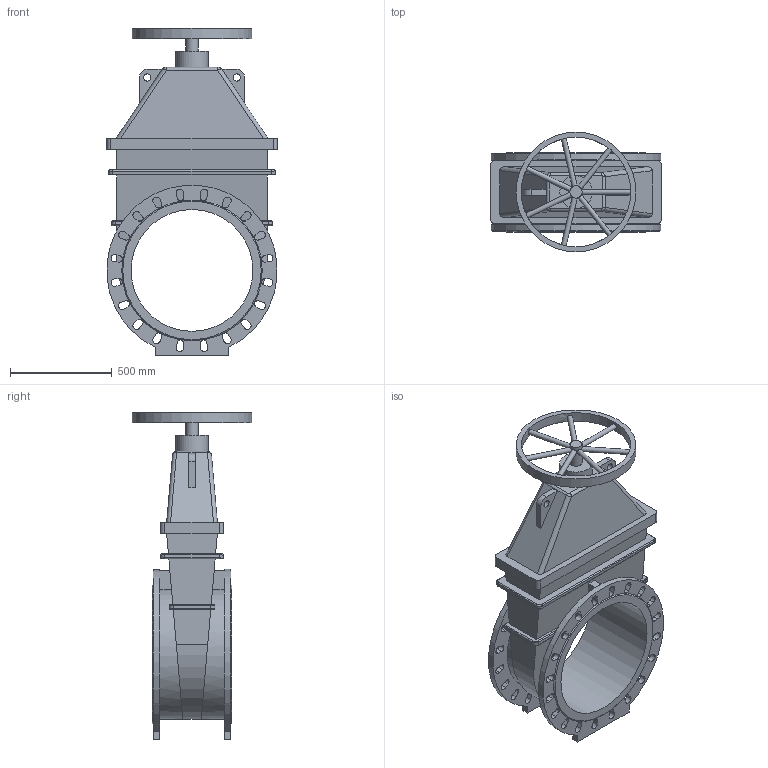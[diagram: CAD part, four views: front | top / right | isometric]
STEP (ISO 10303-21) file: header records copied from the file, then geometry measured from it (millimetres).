
FILE_DESCRIPTION(('STEP AP203'), '1');
FILE_NAME('Çàäâèæêà 47GV.Z DN600 PN10_PN16 ñ ìàõîâèêîì', '', ('UNSPECIFIED'), ('UNSPECIFIED'), 'ASCON STEP Converter 1.6', 'ASCON Math Kernel', '');
FILE_SCHEMA(('CONFIG_CONTROL_DESIGN'));
Length unit declared in the file: millimetre
Bounding box: 840 x 590 x 1612.5 mm (x, y, z)
Volume: 153276663 mm3; surface area: 4845133.9 mm2
Topology: 1 solids, 1 shells, 322 faces, 875 edges, 568 vertices
Faces by surface type: plane 155, cylinder 141, bspline 16, torus 8, cone 2
Full cylindrical faces by diameter (mm): 25 x7, 36 x2, 60 x1, 160 x1, 540 x1, 590 x1, 600 x1
Entity records: 16189 total; most frequent: CARTESIAN_POINT 5292, ORIENTED_EDGE 1716, DIRECTION 1672, EDGE_CURVE 858, AXIS2_PLACEMENT_3D 571, VERTEX_POINT 568, LINE 530, VECTOR 530
